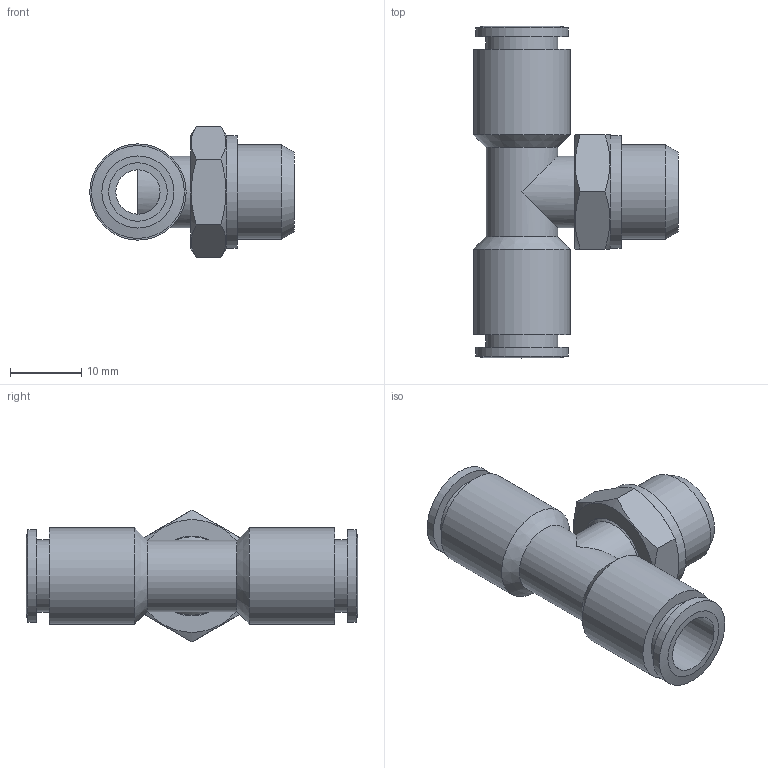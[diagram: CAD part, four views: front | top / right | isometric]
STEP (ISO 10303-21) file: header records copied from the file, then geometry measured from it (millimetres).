
FILE_DESCRIPTION((''),'2;1');
FILE_NAME('C:\Documents and Settings\rivolro1\Documenti\copia di Raccordi\PLASTICA\T20XXXX\T200814.stp','2007-10-31T15:26:41',('Rivolro1'),(''),'Autodesk Inventor 2008','Autodesk Inventor 2008','');
FILE_SCHEMA(('AUTOMOTIVE_DESIGN { 1 0 10303 214 1 1 1 1 }'));
Length unit declared in the file: millimetre
Products named in the file (1): T200814
Bounding box: 28.65 x 46.5 x 18.48 mm (x, y, z)
Volume: 5567.1 mm3; surface area: 4858.8 mm2
Topology: 1 solids, 1 shells, 45 faces, 92 edges, 59 vertices
Faces by surface type: plane 17, cylinder 16, cone 8, bspline 4
Full cylindrical faces by diameter (mm): 6 x1, 6.2 x1, 10 x2, 10.1 x2, 11 x1, 11.2 x1, 13 x2, 13.2 x1, 13.5 x2, 15.8 x1
Entity records: 1185 total; most frequent: CARTESIAN_POINT 290, DIRECTION 170, ORIENTED_EDGE 122, EDGE_LOOP 84, AXIS2_PLACEMENT_3D 81, EDGE_CURVE 61, VERTEX_POINT 53, FACE_OUTER_BOUND 45
